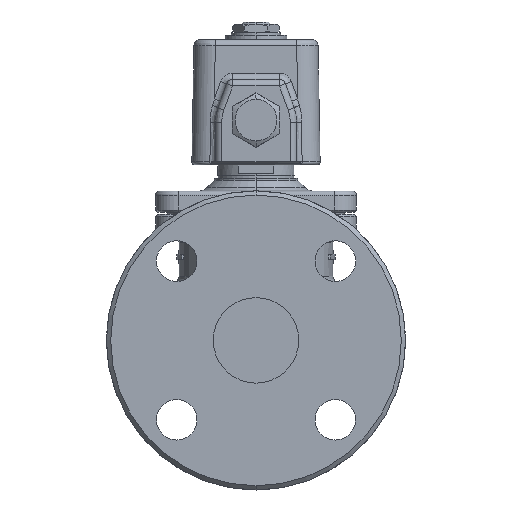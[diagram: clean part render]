
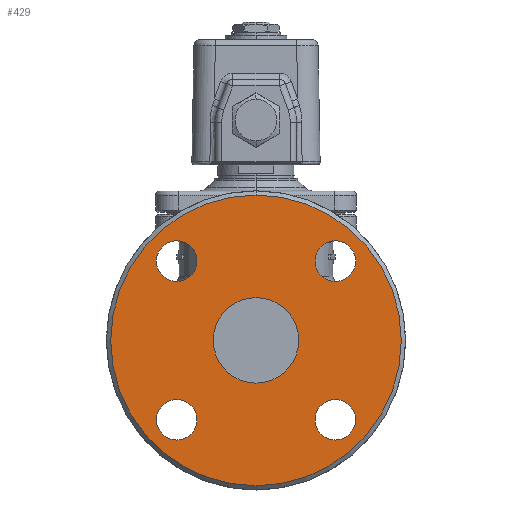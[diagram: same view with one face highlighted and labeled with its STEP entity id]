
A CAD part, left-side view. The second image highlights one B-rep face of the part: STEP entity #429.
In plain terms, the highlighted planar face has unit normal (-1, 0, 0).
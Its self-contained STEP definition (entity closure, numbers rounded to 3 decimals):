
#429=ADVANCED_FACE('',(#2780,#2781,#2782,#2783,#2784,#2785),#2779,.F.);
#2779=PLANE('',#8774);
#2780=FACE_OUTER_BOUND('',#8775,.T.);
#2781=FACE_BOUND('',#8776,.T.);
#2782=FACE_BOUND('',#8777,.T.);
#2783=FACE_BOUND('',#8778,.T.);
#2784=FACE_BOUND('',#8779,.T.);
#2785=FACE_BOUND('',#8780,.T.);
#8771=CARTESIAN_POINT('',(-85.,-127.779,146.));
#8772=DIRECTION('',(1.,0.,0.));
#8773=DIRECTION('',(0.,0.,-1.));
#8774=AXIS2_PLACEMENT_3D('',#8771,#8772,#8773);
#8775=EDGE_LOOP('',(#12485,#12486));
#8776=EDGE_LOOP('',(#12487,#12488));
#8777=EDGE_LOOP('',(#12489,#12490));
#8778=EDGE_LOOP('',(#12491,#12492));
#8779=EDGE_LOOP('',(#12493,#12494));
#8780=EDGE_LOOP('',(#12495,#12496));
#12485=ORIENTED_EDGE('',*,*,#14242,.T.);
#12486=ORIENTED_EDGE('',*,*,#14243,.T.);
#12487=ORIENTED_EDGE('',*,*,#14244,.T.);
#12488=ORIENTED_EDGE('',*,*,#14245,.T.);
#12489=ORIENTED_EDGE('',*,*,#14246,.T.);
#12490=ORIENTED_EDGE('',*,*,#14247,.T.);
#12491=ORIENTED_EDGE('',*,*,#14248,.T.);
#12492=ORIENTED_EDGE('',*,*,#14249,.T.);
#12493=ORIENTED_EDGE('',*,*,#14250,.T.);
#12494=ORIENTED_EDGE('',*,*,#14251,.T.);
#12495=ORIENTED_EDGE('',*,*,#14252,.T.);
#12496=ORIENTED_EDGE('',*,*,#14253,.T.);
#14242=EDGE_CURVE('',#18484,#18485,#18486,.T.);
#14243=EDGE_CURVE('',#18485,#18484,#18492,.T.);
#14244=EDGE_CURVE('',#18498,#18499,#18500,.T.);
#14245=EDGE_CURVE('',#18499,#18498,#18506,.T.);
#14246=EDGE_CURVE('',#18512,#18513,#18514,.T.);
#14247=EDGE_CURVE('',#18513,#18512,#18520,.T.);
#14248=EDGE_CURVE('',#18526,#18527,#18528,.T.);
#14249=EDGE_CURVE('',#18527,#18526,#18534,.T.);
#14250=EDGE_CURVE('',#18540,#18541,#18542,.T.);
#14251=EDGE_CURVE('',#18541,#18540,#18548,.T.);
#14252=EDGE_CURVE('',#18554,#18555,#18556,.T.);
#14253=EDGE_CURVE('',#18555,#18554,#18562,.T.);
#18484=VERTEX_POINT('',#25700);
#18485=VERTEX_POINT('',#25701);
#18486=CIRCLE('',#25705,68.);
#18492=CIRCLE('',#25709,68.);
#18498=VERTEX_POINT('',#25710);
#18499=VERTEX_POINT('',#25711);
#18500=CIRCLE('',#25715,20.);
#18506=CIRCLE('',#25719,20.);
#18512=VERTEX_POINT('',#25720);
#18513=VERTEX_POINT('',#25721);
#18514=CIRCLE('',#25725,9.5);
#18520=CIRCLE('',#25729,9.5);
#18526=VERTEX_POINT('',#25730);
#18527=VERTEX_POINT('',#25731);
#18528=CIRCLE('',#25735,9.5);
#18534=CIRCLE('',#25739,9.5);
#18540=VERTEX_POINT('',#25740);
#18541=VERTEX_POINT('',#25741);
#18542=CIRCLE('',#25745,9.5);
#18548=CIRCLE('',#25749,9.5);
#18554=VERTEX_POINT('',#25750);
#18555=VERTEX_POINT('',#25751);
#18556=CIRCLE('',#25755,9.5);
#18562=CIRCLE('',#25759,9.5);
#25700=CARTESIAN_POINT('',(-85.,0.,-68.));
#25701=CARTESIAN_POINT('',(-85.,0.,68.));
#25702=CARTESIAN_POINT('',(-85.,0.,0.));
#25703=DIRECTION('',(-1.,0.,0.));
#25704=DIRECTION('',(0.,0.,-1.));
#25705=AXIS2_PLACEMENT_3D('',#25702,#25703,#25704);
#25706=CARTESIAN_POINT('',(-85.,0.,0.));
#25707=DIRECTION('',(-1.,0.,0.));
#25708=DIRECTION('',(0.,0.,-1.));
#25709=AXIS2_PLACEMENT_3D('',#25706,#25707,#25708);
#25710=CARTESIAN_POINT('',(-85.,0.,20.));
#25711=CARTESIAN_POINT('',(-85.,0.,-20.));
#25712=CARTESIAN_POINT('',(-85.,0.,0.));
#25713=DIRECTION('',(1.,0.,0.));
#25714=DIRECTION('',(0.,0.,1.));
#25715=AXIS2_PLACEMENT_3D('',#25712,#25713,#25714);
#25716=CARTESIAN_POINT('',(-85.,0.,0.));
#25717=DIRECTION('',(1.,0.,0.));
#25718=DIRECTION('',(0.,0.,1.));
#25719=AXIS2_PLACEMENT_3D('',#25716,#25717,#25718);
#25720=CARTESIAN_POINT('',(-85.,-37.123,46.623));
#25721=CARTESIAN_POINT('',(-85.,-37.123,27.623));
#25722=CARTESIAN_POINT('',(-85.,-37.123,37.123));
#25723=DIRECTION('',(1.,0.,0.));
#25724=DIRECTION('',(0.,0.,1.));
#25725=AXIS2_PLACEMENT_3D('',#25722,#25723,#25724);
#25726=CARTESIAN_POINT('',(-85.,-37.123,37.123));
#25727=DIRECTION('',(1.,0.,0.));
#25728=DIRECTION('',(0.,0.,1.));
#25729=AXIS2_PLACEMENT_3D('',#25726,#25727,#25728);
#25730=CARTESIAN_POINT('',(-85.,-37.123,-27.623));
#25731=CARTESIAN_POINT('',(-85.,-37.123,-46.623));
#25732=CARTESIAN_POINT('',(-85.,-37.123,-37.123));
#25733=DIRECTION('',(1.,0.,0.));
#25734=DIRECTION('',(0.,0.,1.));
#25735=AXIS2_PLACEMENT_3D('',#25732,#25733,#25734);
#25736=CARTESIAN_POINT('',(-85.,-37.123,-37.123));
#25737=DIRECTION('',(1.,0.,0.));
#25738=DIRECTION('',(0.,0.,1.));
#25739=AXIS2_PLACEMENT_3D('',#25736,#25737,#25738);
#25740=CARTESIAN_POINT('',(-85.,37.123,-27.623));
#25741=CARTESIAN_POINT('',(-85.,37.123,-46.623));
#25742=CARTESIAN_POINT('',(-85.,37.123,-37.123));
#25743=DIRECTION('',(1.,0.,0.));
#25744=DIRECTION('',(0.,0.,1.));
#25745=AXIS2_PLACEMENT_3D('',#25742,#25743,#25744);
#25746=CARTESIAN_POINT('',(-85.,37.123,-37.123));
#25747=DIRECTION('',(1.,0.,0.));
#25748=DIRECTION('',(0.,0.,1.));
#25749=AXIS2_PLACEMENT_3D('',#25746,#25747,#25748);
#25750=CARTESIAN_POINT('',(-85.,37.123,46.623));
#25751=CARTESIAN_POINT('',(-85.,37.123,27.623));
#25752=CARTESIAN_POINT('',(-85.,37.123,37.123));
#25753=DIRECTION('',(1.,0.,0.));
#25754=DIRECTION('',(0.,0.,1.));
#25755=AXIS2_PLACEMENT_3D('',#25752,#25753,#25754);
#25756=CARTESIAN_POINT('',(-85.,37.123,37.123));
#25757=DIRECTION('',(1.,0.,0.));
#25758=DIRECTION('',(0.,0.,1.));
#25759=AXIS2_PLACEMENT_3D('',#25756,#25757,#25758);
